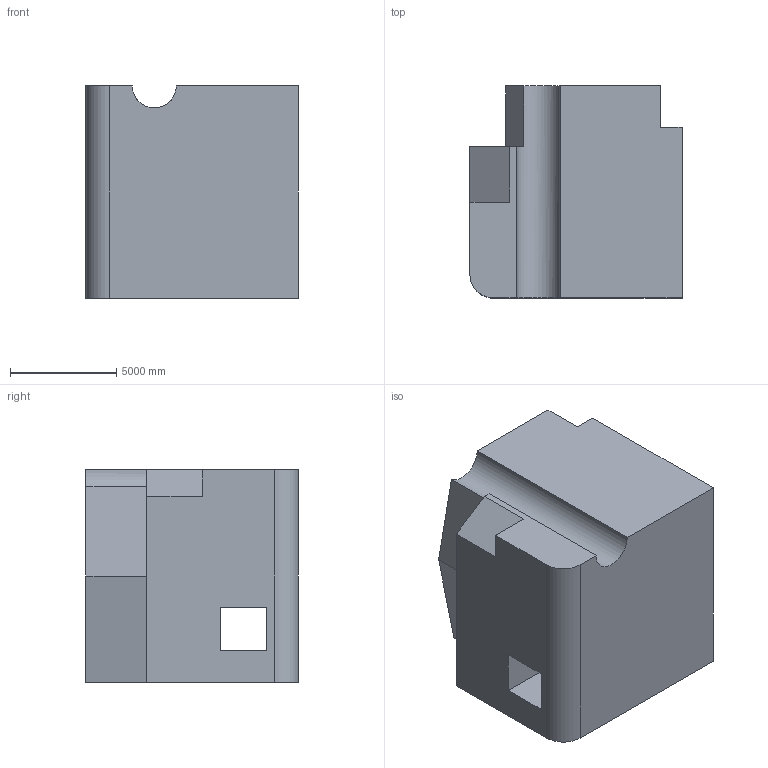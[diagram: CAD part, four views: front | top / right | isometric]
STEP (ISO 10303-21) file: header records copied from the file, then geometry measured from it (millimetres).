
FILE_DESCRIPTION (( 'STEP AP203' ), '1' );
FILE_NAME ('766.STEP', '2022-07-29T13:03:42', ( 'user' ), ( '' ), 'SwSTEP 2.0', 'SolidWorks 2021', '' );
FILE_SCHEMA (( 'CONFIG_CONTROL_DESIGN' ));
Length unit declared in the file: centimetre
Products named in the file (1): 766
Bounding box: 10000 x 10000 x 10000 mm (x, y, z)
Volume: 820057826582.3 mm3; surface area: 703086322.3 mm2
Topology: 1 solids, 1 shells, 27 faces, 72 edges, 48 vertices
Faces by surface type: plane 21, cylinder 6
Entity records: 926 total; most frequent: CARTESIAN_POINT 148, ORIENTED_EDGE 144, DIRECTION 143, EDGE_CURVE 72, LINE 57, VECTOR 57, VERTEX_POINT 48, AXIS2_PLACEMENT_3D 43
